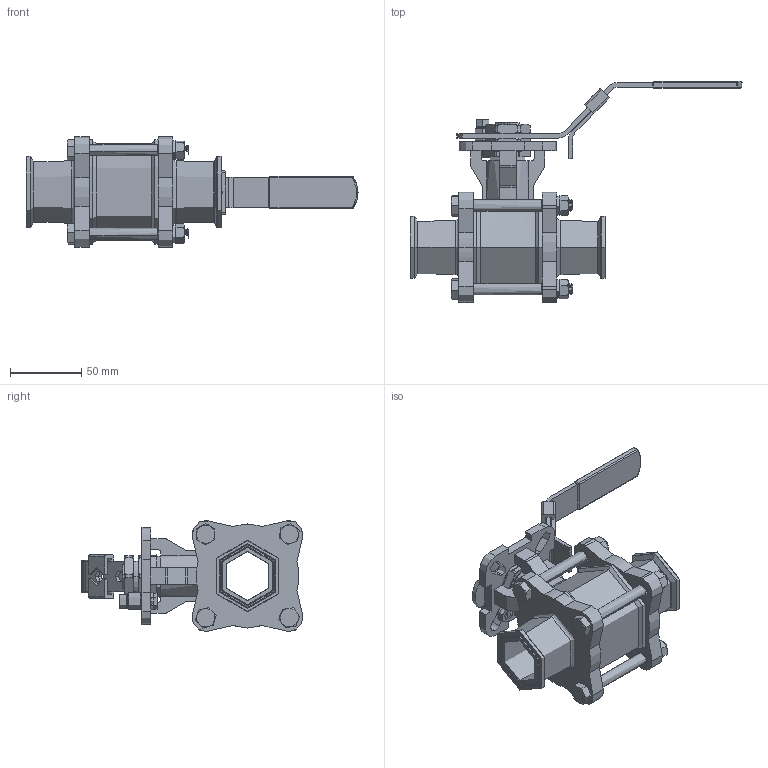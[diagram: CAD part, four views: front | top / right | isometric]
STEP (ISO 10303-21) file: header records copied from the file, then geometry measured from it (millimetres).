
FILE_DESCRIPTION (( 'STEP AP203' ), '1' );
FILE_NAME ('STC-12.STEP', '2021-06-18T16:57:20', ( '' ), ( '' ), 'SwSTEP 2.0', 'SolidWorks 2017', '' );
FILE_SCHEMA (( 'CONFIG_CONTROL_DESIGN' ));
Length unit declared in the file: inch
Products named in the file (37): STC-12-SEAT; m8 HEX NUT-W-WASHER; STC-12; stc-12-handle; STC-12-ENDCAP; M8X80-HEX; NUT-STC-12; STC-12-BODY; handle-stop-spacer; STC-12-BALL; M6X25-TYPE 18-8 SS SOCKET HEAD CAP SCREW_91292A137; m6-nut_91028A661; m6-lockwasher_90965A170; M8X80-HEX_91287A164; M6X25-TYPE 18-8 SS SOCKET HEAD CAP SCREW; m8 HEX NUT-W-WASHER_91028A664; m6-nut; STC-12-STEM; m6-lockwasher
Assembly tree (32 placements, depth 2):
  STC-12-SEAT
  STC-12
    m8 HEX NUT-W-WASHER
    M8X80-HEX
    m8 HEX NUT-W-WASHER
    m6-nut
    M6X25-TYPE 18-8 SS SOCKET HEAD CAP SCREW
    M8X80-HEX
    m8 HEX NUT-W-WASHER
    m8 HEX NUT-W-WASHER
    M8X80-HEX
    M8X80-HEX
  STC-12-ENDCAP
  stc-12-handle
  NUT-STC-12
Bounding box: 233.25 x 155.28 x 77.8 mm (x, y, z)
Volume: 345075.8 mm3; surface area: 149225.6 mm2
Topology: 24 solids, 24 shells, 1153 faces, 2995 edges, 1876 vertices
Faces by surface type: cylinder 520, plane 293, cone 218, torus 59, bspline 53, sphere 10
Full cylindrical faces by diameter (mm): 13.25 x4
Entity records: 39479 total; most frequent: CARTESIAN_POINT 19929, ORIENTED_EDGE 3472, DIRECTION 3194, EDGE_CURVE 1736, AXIS2_PLACEMENT_3D 1208, VERTEX_POINT 1099, LINE 778, VECTOR 778
